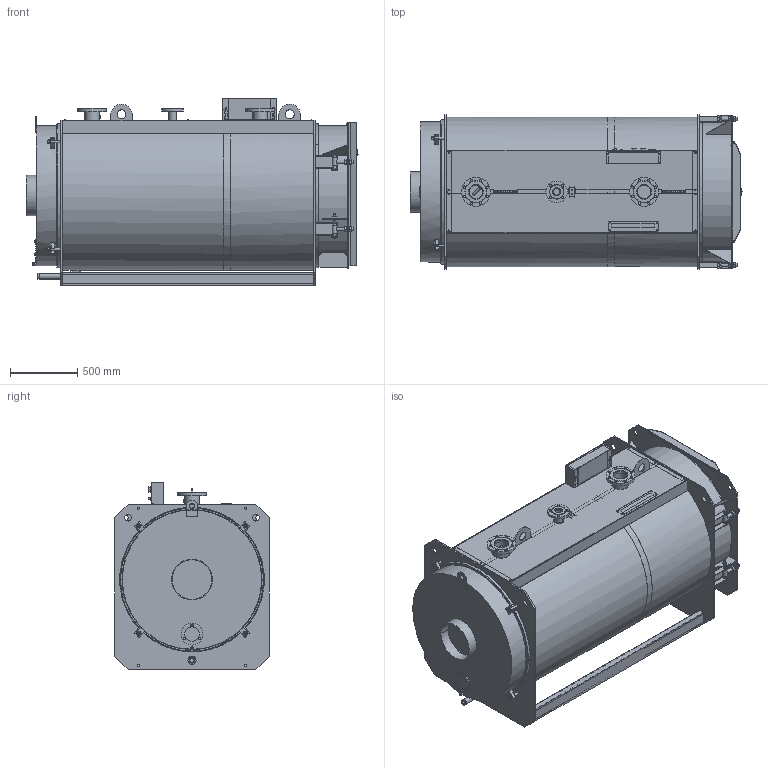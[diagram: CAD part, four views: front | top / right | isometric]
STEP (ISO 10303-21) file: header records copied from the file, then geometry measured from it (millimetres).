
FILE_DESCRIPTION(('STEP AP242'), '1');
FILE_NAME('Òèòàí Ïðîì 700 êÂò', '2026-01-13T13:51:42', (''), (''), 'ASCON STEP Converter 1.6', 'ASCON Math Kernel', '');
FILE_SCHEMA(('AP242_MANAGED_MODEL_BASED_3D_ENGINEERING_MIM_LF { 1 0 10303 442 1 1 4 }'));
Length unit declared in the file: millimetre
Products named in the file (1): КЕВМ.3136.00.00.000-09 СБ
Bounding box: 2467.26 x 1150 x 1393.16 mm (x, y, z)
Volume: 51907798.2 mm3; surface area: 31212692.1 mm2
Topology: 65 solids, 73 shells, 4733 faces, 11977 edges, 7680 vertices
Faces by surface type: plane 2857, cylinder 1466, cone 185, bspline 174, torus 29, sphere 14, extrusion 8
Full cylindrical faces by diameter (mm): 1.9 x1, 2 x18, 2.5 x1, 3 x8, 3.5 x13, 3.6 x4, 4 x8, 4.1 x10, 4.2 x4, 4.5 x8, 4.8 x1, 5 x28, 6 x5, 7 x2, 7.6 x1, 8 x6, 8.5 x2, 9 x2, 9.25 x8, 9.5 x10, 9.728 x1, 10 x6, 10.5 x1, 11 x1, 12 x10, 13 x4, 13.835 x3, 14.376 x4, 14.5 x1, 15 x3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
Entity records: 259508 total; most frequent: CARTESIAN_POINT 109892, ORIENTED_EDGE 22812, DIRECTION 22097, EDGE_CURVE 11406, VERTEX_POINT 7660, AXIS2_PLACEMENT_3D 7618, VECTOR 6861, LINE 6853
